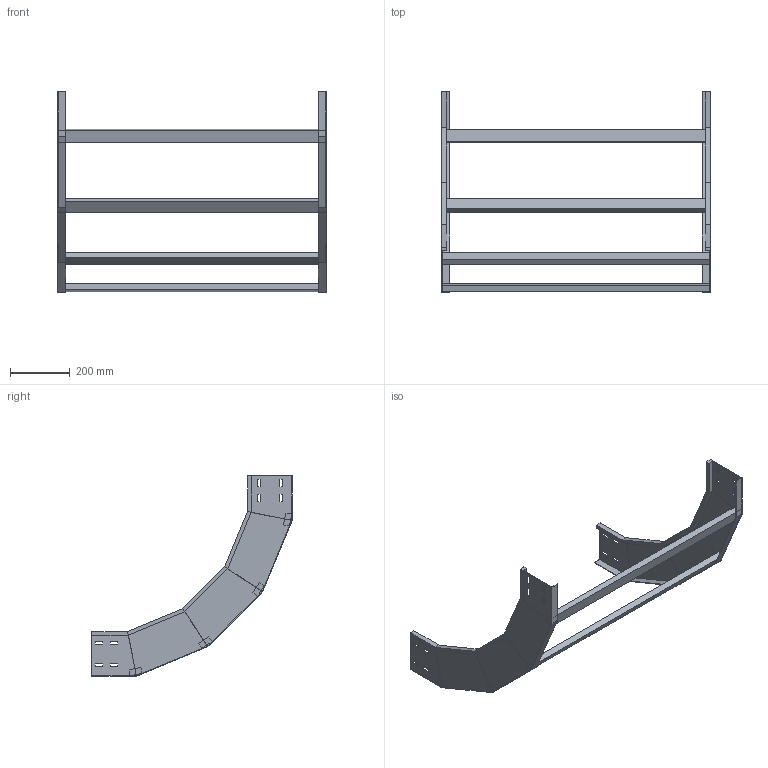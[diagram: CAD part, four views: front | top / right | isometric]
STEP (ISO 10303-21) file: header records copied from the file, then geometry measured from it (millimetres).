
FILE_DESCRIPTION (( 'STEP AP214' ), '1' );
FILE_NAME ('30J5F900.step', '2025-02-21T16:27:42', ( '' ), ( '' ), 'SwSTEP 2.0', 'SolidWorks 2023', '' );
FILE_SCHEMA (( 'AUTOMOTIVE_DESIGN' ));
Length unit declared in the file: millimetre
Products named in the file (3): 30J5F900; LONGH.SALITA_90°_H150_R500; TRAVERSINO_900
Assembly tree (6 placements, depth 2):
  30J5F900
    LONGH.SALITA_90°_H150_R500  x2
    TRAVERSINO_900  x4
Bounding box: 900 x 671.54 x 671.54 mm (x, y, z)
Volume: 3903548 mm3; surface area: 1181344.2 mm2
Topology: 6 solids, 6 shells, 172 faces, 416 edges, 256 vertices
Faces by surface type: plane 172
Entity records: 2416 total; most frequent: CARTESIAN_POINT 405, ORIENTED_EDGE 392, DIRECTION 374, EDGE_CURVE 196, LINE 196, VECTOR 196, VERTEX_POINT 120, EDGE_LOOP 96
